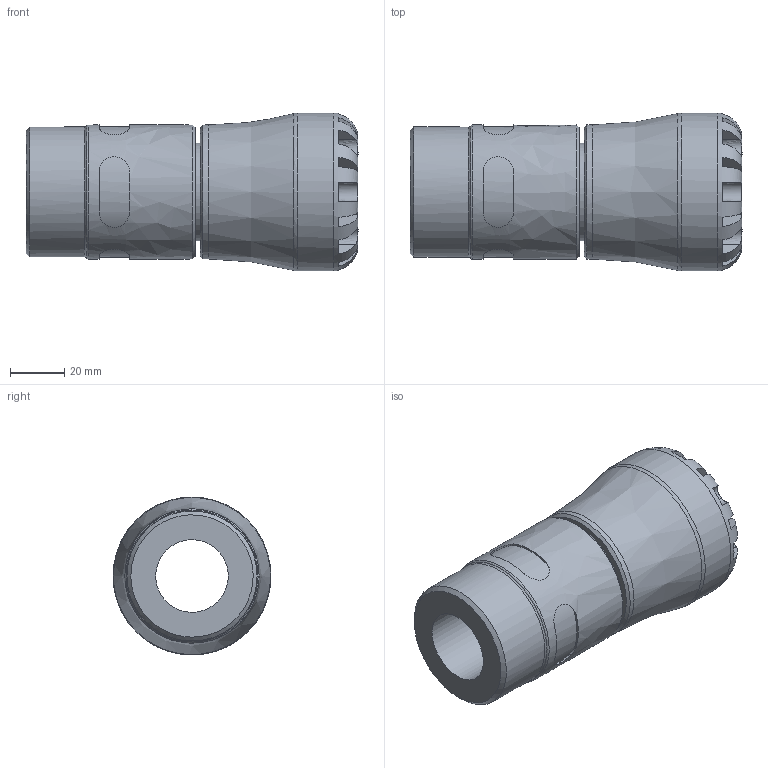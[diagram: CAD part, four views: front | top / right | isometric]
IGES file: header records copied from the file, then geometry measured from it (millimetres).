
Global section: file name: 10N200032015_10N2G0032015; native system: Autodesk Inventor 2019; preprocessor: unknown; author: KIM; date: 20240312.131932; units: millimetre
Bounding box: 122 x 58 x 58 mm (x, y, z)
Volume: 164380.5 mm3; surface area: 36604.5 mm2
Topology: 1 solids, 1 shells, 105 faces, 274 edges, 177 vertices
Faces by surface type: bspline 105
